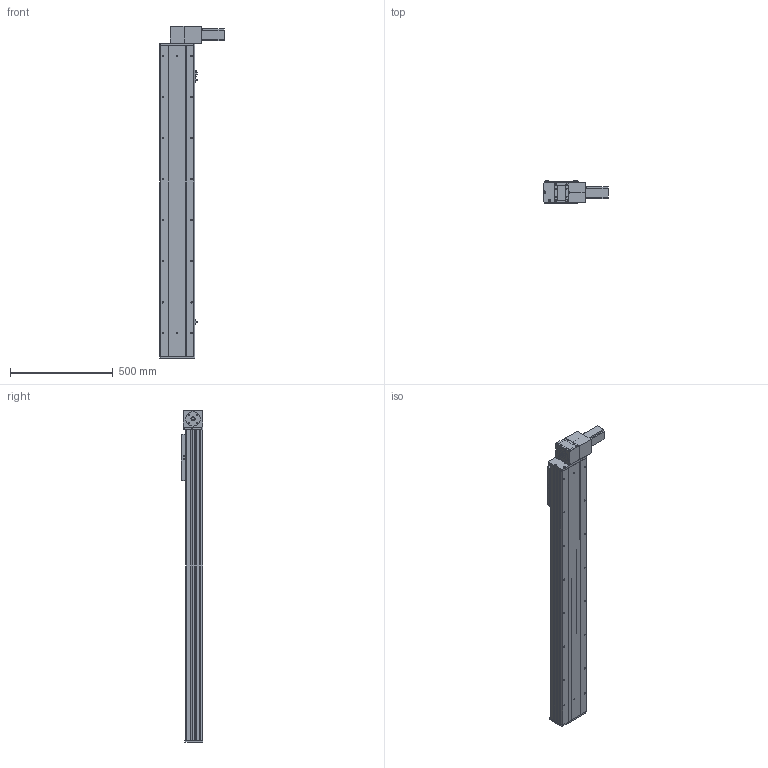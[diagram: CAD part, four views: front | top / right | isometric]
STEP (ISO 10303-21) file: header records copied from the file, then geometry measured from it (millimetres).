
FILE_DESCRIPTION (( 'STEP AP203' ), '1' );
FILE_NAME ('Y170CB-D105-S1200-BD-P400W.STEP', '2020-02-20T08:39:39', ( '微软用户' ), ( '微软中国' ), 'SwSTEP 2.0', 'SolidWorks 2017', '' );
FILE_SCHEMA (( 'CONFIG_CONTROL_DESIGN' ));
Length unit declared in the file: millimetre
Products named in the file (16): 70C--詩湍揤踡え-; 0B薊粣ん眊-400W--; Y170CB-D105-S1200-BD-P400W; 70CB--耜裔; 70C-雄赽釱-奻-; 0C--雄赽釱俋欶-170; B-源倛裔啣; 70CB-詩湍--; san松下电机400不带刹车----; Y100-135俋离換覜ん--; 70CB-掛极-; Y170CB-陔俋离換覜結え---; --70CB --喘謫眊楊擘啣-; Y1埴倛裔; 70CB-耜裔啣-; 70B喘謫眊----
Assembly tree (19 placements, depth 2):
  Y170CB-D105-S1200-BD-P400W
    B-源倛裔啣
    san松下电机400不带刹车----
    70CB-掛极-
    --70CB --喘謫眊楊擘啣-
    70CB-耜裔啣-  x2
    70C--詩湍揤踡え-  x2
    70CB--耜裔
    70C-雄赽釱-奻-
    0C--雄赽釱俋欶-170
    70CB-詩湍--
    Y100-135俋离換覜ん--  x3
    Y170CB-陔俋离換覜結え---
    Y1埴倛裔
    70B喘謫眊----
    0B薊粣ん眊-400W--
Bounding box: 313.5 x 107 x 1616 mm (x, y, z)
Volume: 7614352 mm3; surface area: 2602566.8 mm2
Topology: 19 solids, 19 shells, 928 faces, 2450 edges, 1624 vertices
Faces by surface type: cylinder 482, plane 422, cone 24
Entity records: 29011 total; most frequent: CARTESIAN_POINT 5386, DIRECTION 4719, ORIENTED_EDGE 4382, EDGE_CURVE 2191, AXIS2_PLACEMENT_3D 1741, VERTEX_POINT 1454, LINE 1237, VECTOR 1237
